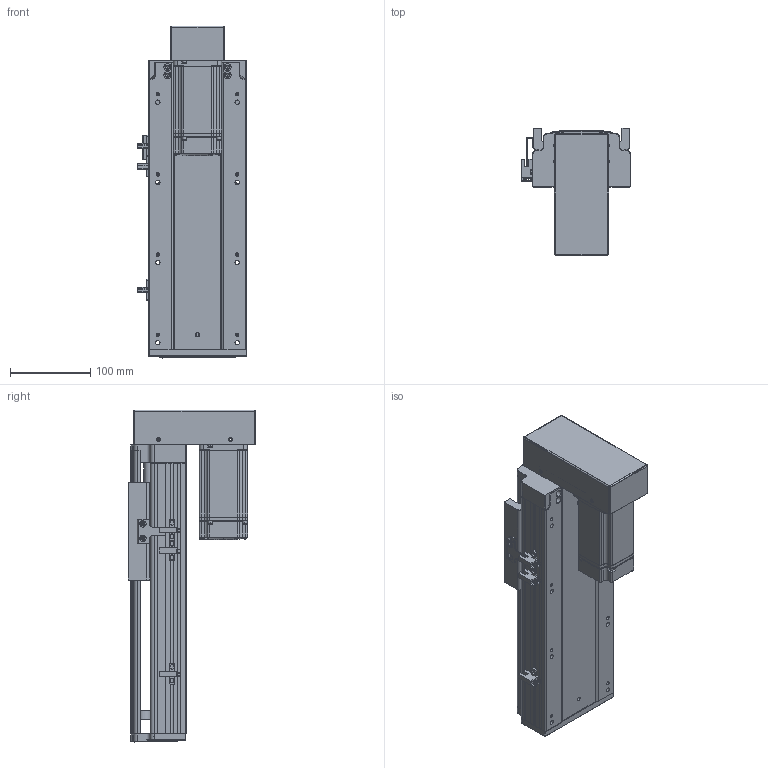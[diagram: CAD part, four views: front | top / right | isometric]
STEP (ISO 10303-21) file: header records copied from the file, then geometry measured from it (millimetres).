
FILE_DESCRIPTION (( 'STEP AP203' ), '1' );
FILE_NAME ('RY120-L2020-300-BK.SLDASM_150.step', '2021-03-12T06:57:06', ( '盈信电脑' ), ( '东莞市道滘镇水果街19号' ), 'SwSTEP 2.0', 'SolidWorks 2012', '' );
FILE_SCHEMA (( 'CONFIG_CONTROL_DESIGN' ));
Length unit declared in the file: millimetre
Products named in the file (15): RY120-L2020-300-BK.SLDASM_150; RY120-400W萇儂傷-BK; RY120下折折电机安装板; RY120狟殏萇儂欶; RY120外置感应片(140共用）; 15; RY120转拆电端丝杆支撑座(20丝杆，7002轴承); 侂狟400W侜督萇儂; 滅袉蝶18-24; 覜茼ん672; 滅袉蝶18-10; RY120臏賑輸(20蹟譫); RY120-300-BK蛌殏倰第菁釱_150; RY120-300-BK蛌殏倰第奻裔啣_150; RY120綴裔啣
Assembly tree (17 placements, depth 4):
  RY120-L2020-300-BK.SLDASM_150
    RY120-300-BK蛌殏倰第菁釱_150
    RY120-300-BK蛌殏倰第奻裔啣_150
    RY120臏賑輸(20蹟譫)
    RY120綴裔啣
    覜茼ん672  x3
    滅袉蝶18-10
    滅袉蝶18-24  x2
    RY120外置感应片(140共用）
    RY120转拆电端丝杆支撑座(20丝杆，7002轴承)
    RY120-400W萇儂傷-BK
      侂狟400W侜督萇儂
        15
      RY120狟殏萇儂欶
      RY120下折折电机安装板
Bounding box: 135.7 x 159.5 x 414 mm (x, y, z)
Volume: 1647587.8 mm3; surface area: 558989.1 mm2
Topology: 16 solids, 16 shells, 2226 faces, 6079 edges, 3908 vertices
Faces by surface type: plane 1186, cylinder 766, cone 169, bspline 105
Entity records: 72777 total; most frequent: CARTESIAN_POINT 19947, ORIENTED_EDGE 10942, DIRECTION 10175, EDGE_CURVE 5471, VERTEX_POINT 3576, LINE 3525, VECTOR 3525, AXIS2_PLACEMENT_3D 3325
